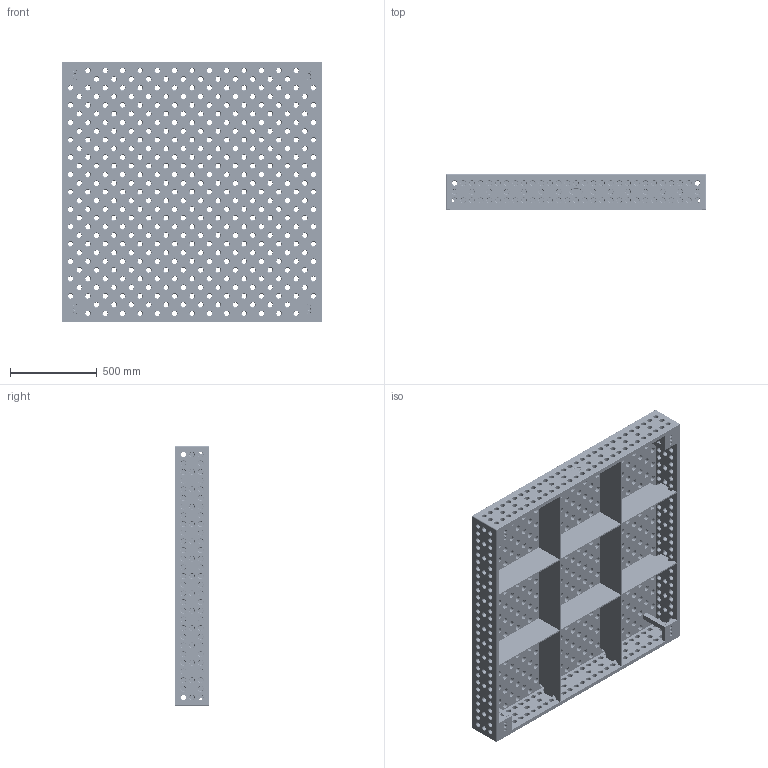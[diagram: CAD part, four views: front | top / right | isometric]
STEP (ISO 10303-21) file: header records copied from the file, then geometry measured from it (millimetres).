
FILE_DESCRIPTION (( 'STEP AP203' ), '1' );
FILE_NAME ('280050.XD7D.STEP', '2020-11-30T14:25:39', ( '' ), ( '' ), 'SwSTEP 2.0', 'SolidWorks 2019', '' );
FILE_SCHEMA (( 'CONFIG_CONTROL_DESIGN' ));
Products named in the file (1): 280050.XD7D
Bounding box: 1500 x 200 x 1500 mm (x, y, z)
Volume: 79238547.4 mm3; surface area: 9282359.1 mm2
Topology: 1 solids, 1 shells, 4493 faces, 10602 edges, 6096 vertices
Faces by surface type: cylinder 1486, cone 1474, torus 1426, plane 99, bspline 8
Entity records: 133947 total; most frequent: DIRECTION 26856, CARTESIAN_POINT 22532, ORIENTED_EDGE 21204, AXIS2_PLACEMENT_3D 11784, EDGE_CURVE 10602, CIRCLE 7298, VERTEX_POINT 6096, EDGE_LOOP 5964
